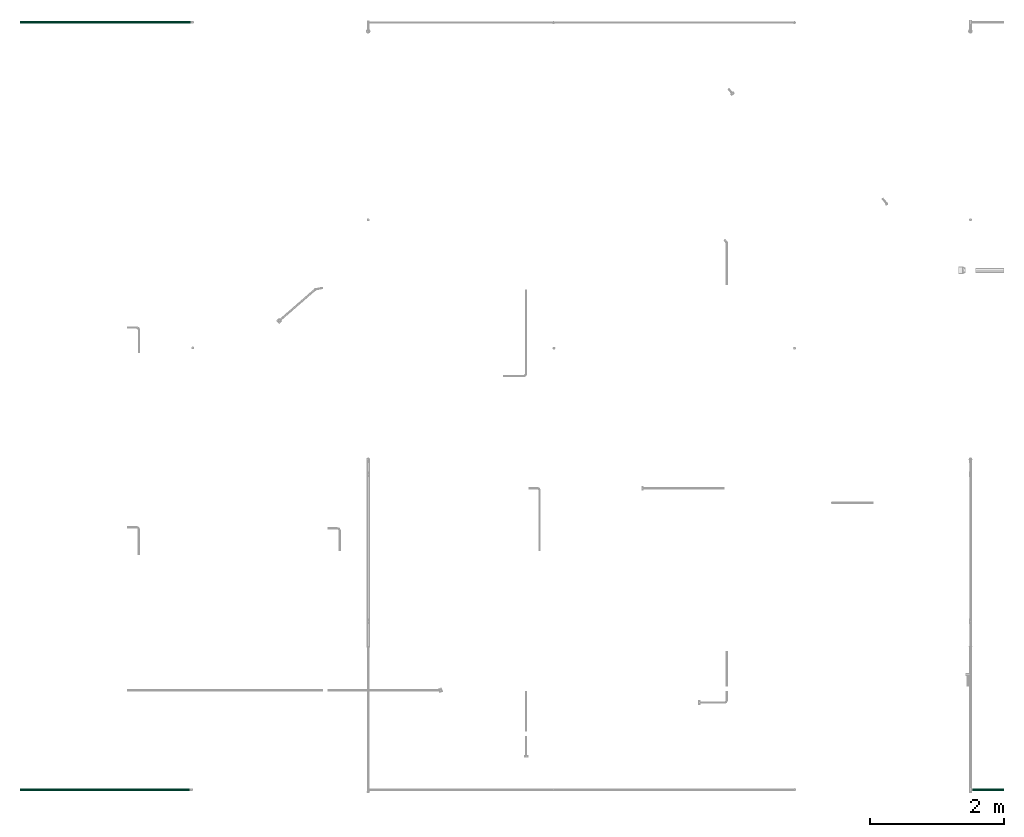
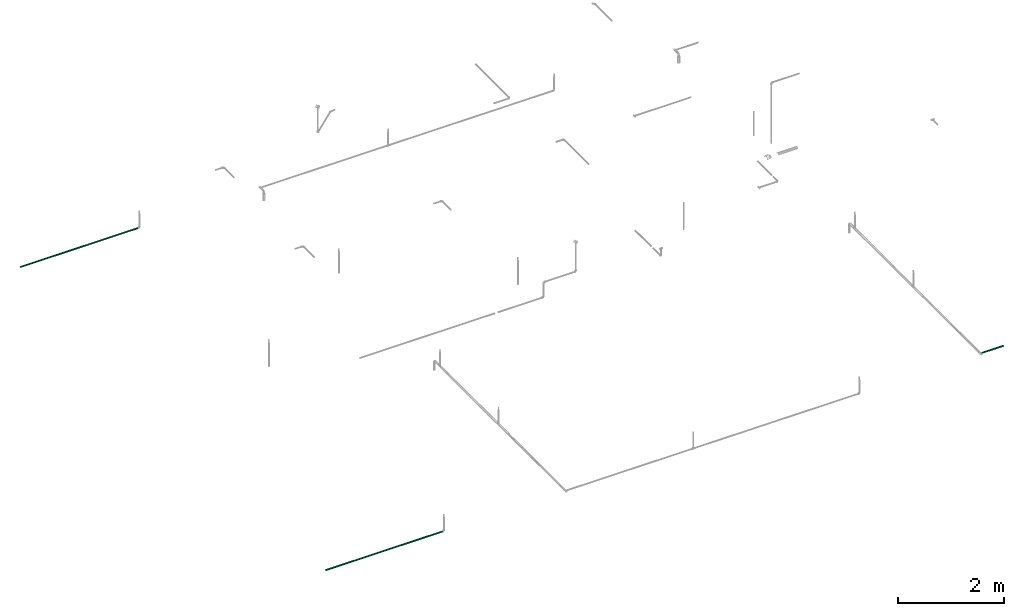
# One storey, part 58 of 63: 3 flow segments.
"""IFC2X3 building model written with IfcOpenShell, lengths in millimetres."""

from ifc_helpers import new_model, entity, si_unit, converted_unit, derived_unit, direction, frame, place, context, subcontext, project, spatial, faceted_brep, type_object, element, save


model = new_model("IFC2X3")

# Units and contexts
model_context = context("Model", 3, precision=0.01, world=frame((0.0, 4.29681676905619e-09, 0.0)), true_north=direction((4.01073788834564e-13, 1.0)))
plan_context = context("Plan", 3, precision=0.01, world=frame((0.0, 4.29681676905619e-09, 0.0)), true_north=direction((4.01073788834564e-13, 1.0)))
body_context = subcontext(model_context, "Body", "Model", "MODEL_VIEW")
ifc_project = project(units=[converted_unit("PLANEANGLEUNIT", "DEGREE", entity("IfcPositiveLengthMeasure", 0.0174532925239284), si_unit("PLANEANGLEUNIT", "RADIAN"), dimensions=[0, 0, 0, 0, 0, 0, 0]), si_unit("AREAUNIT", "SQUARE_METRE"), si_unit("LENGTHUNIT", "METRE", prefix="MILLI"), si_unit("MASSUNIT", "GRAM", prefix="KILO"), si_unit("POWERUNIT", "WATT"), si_unit("PRESSUREUNIT", "PASCAL", prefix="KILO"), si_unit("FORCEUNIT", "NEWTON", prefix="KILO"), si_unit("ELECTRICVOLTAGEUNIT", "VOLT"), si_unit("ELECTRICCURRENTUNIT", "AMPERE"), si_unit("THERMODYNAMICTEMPERATUREUNIT", "DEGREE_CELSIUS"), si_unit("TIMEUNIT", "SECOND"), si_unit("VOLUMEUNIT", "CUBIC_METRE"), derived_unit("LINEARVELOCITYUNIT", [(si_unit("LENGTHUNIT", "METRE"), 1), (si_unit("TIMEUNIT", "SECOND"), -1)]), derived_unit("VOLUMETRICFLOWRATEUNIT", [(si_unit("VOLUMEUNIT", "CUBIC_METRE"), 1), (si_unit("TIMEUNIT", "SECOND"), -1)]), derived_unit("THERMALTRANSMITTANCEUNIT", [(si_unit("POWERUNIT", "WATT"), 1), (si_unit("THERMODYNAMICTEMPERATUREUNIT", "KELVIN"), -1), (si_unit("AREAUNIT", "SQUARE_METRE"), -1)]), derived_unit("SOUNDPRESSUREUNIT", [(si_unit("PRESSUREUNIT", "PASCAL"), 1)])], contexts=[model_context, plan_context])

# Site, building, storey
site_placement = place(None, frame((0.0, -4.29681676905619e-09, 0.0), z_axis=(0.0, 0.0, 1.0), x_axis=(1.0, 0.0, 0.0)))
site = spatial("IfcSite", under=ifc_project, at=site_placement, CompositionType="ELEMENT")
building_placement = place(site_placement, frame((0.0, 4.29681676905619e-09, 0.0), z_axis=(0.0, 0.0, 1.0), x_axis=(1.0, 0.0, 0.0)))
building = spatial("IfcBuilding", under=site, at=building_placement, Name="mc-building", CompositionType="ELEMENT")
storey_placement = place(building_placement, frame((0.0, 0.0, 207370.0), z_axis=(0.0, 0.0, 1.0), x_axis=(1.0, 0.0, 0.0)))
storey = spatial("IfcBuildingStorey", under=building, at=storey_placement, Name="Nivå E", CompositionType="ELEMENT", Elevation=207370.0)

# Flow segments
pipe_segment_type = type_object("IfcPipeSegmentType", Name="Stålrør normaltykke", PredefinedType="RIGIDSEGMENT")
flow_segment_1_placement = place(storey_placement, frame((713611.25017, 446162.04449, 2700.0), z_axis=(0.0, 0.0, 1.0), x_axis=(1.0, 0.0, 0.0)))
element("IfcFlowSegment", 1, at=flow_segment_1_placement, inside=storey, type_object=pipe_segment_type, Name="Stålrør normaltykke", context=body_context, shape_type="Brep", body=[
    faceted_brep([(826.737329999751, 14.6736355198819, -2.58735784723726), (826.737329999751, 14.9, 0.0), (3372.3, 14.9, 0.0), (3372.3, 14.6736355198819, -2.58735784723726), (826.737329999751, 14.00142004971, -5.09610013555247), (3372.3, 14.00142004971, -5.09610013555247), (826.737329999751, 12.9037785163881, -7.45), (3372.3, 12.9037785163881, -7.45000000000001), (826.737329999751, 11.4140622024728, -9.57753538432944), (3372.3, 11.4140622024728, -9.57753538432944), (826.737329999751, 9.57753538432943, -11.4140622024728), (3372.3, 9.57753538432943, -11.4140622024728), (826.737329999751, 7.45, -12.9037785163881), (3372.3, 7.45, -12.9037785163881), (826.737329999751, 5.09610013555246, -14.00142004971), (3372.3, 5.09610013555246, -14.00142004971), (826.737329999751, 2.58735784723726, -14.6736355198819), (3372.3, 2.58735784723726, -14.6736355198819), (826.737329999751, -2.73708559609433e-15, -14.9), (3372.3, -2.73708559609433e-15, -14.9), (826.737329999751, -2.58735784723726, -14.6736355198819), (3372.3, -2.58735784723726, -14.6736355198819), (826.737329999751, -5.09610013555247, -14.00142004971), (3372.3, -5.09610013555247, -14.00142004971), (826.737329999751, -7.45, -12.9037785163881), (3372.3, -7.45000000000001, -12.9037785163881), (826.737329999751, -9.57753538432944, -11.4140622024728), (3372.3, -9.57753538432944, -11.4140622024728), (826.737329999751, -11.4140622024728, -9.57753538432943), (3372.3, -11.4140622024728, -9.57753538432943), (826.737329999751, -12.9037785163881, -7.44999999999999), (3372.3, -12.9037785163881, -7.44999999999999), (826.737329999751, -14.00142004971, -5.09610013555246), (3372.3, -14.00142004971, -5.09610013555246), (826.737329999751, -14.6736355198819, -2.58735784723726), (3372.3, -14.6736355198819, -2.58735784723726), (826.737329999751, -14.9, 1.82472373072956e-15), (3372.3, -14.9, 1.82472373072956e-15), (826.737329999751, -14.6736355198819, 2.58735784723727), (3372.3, -14.6736355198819, 2.58735784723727), (826.737329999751, -14.00142004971, 5.09610013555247), (3372.3, -14.00142004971, 5.09610013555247), (826.737329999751, -12.9037785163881, 7.45), (3372.3, -12.9037785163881, 7.45), (826.737329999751, -11.4140622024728, 9.57753538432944), (3372.3, -11.4140622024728, 9.57753538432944), (826.737329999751, -9.57753538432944, 11.4140622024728), (3372.3, -9.57753538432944, 11.4140622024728), (826.737329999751, -7.45, 12.9037785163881), (3372.3, -7.45, 12.9037785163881), (826.737329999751, -5.09610013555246, 14.00142004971), (3372.3, -5.09610013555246, 14.00142004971), (826.737329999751, -2.58735784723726, 14.6736355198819), (3372.3, -2.58735784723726, 14.6736355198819), (826.737329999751, 9.12361865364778e-16, 14.9), (3372.3, 9.12361865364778e-16, 14.9), (826.737329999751, 2.58735784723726, 14.6736355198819), (3372.3, 2.58735784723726, 14.6736355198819), (826.737329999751, 5.09610013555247, 14.00142004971), (3372.3, 5.09610013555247, 14.00142004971), (826.737329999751, 7.45, 12.9037785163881), (3372.3, 7.45, 12.9037785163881), (826.737329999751, 9.57753538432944, 11.4140622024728), (3372.3, 9.57753538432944, 11.4140622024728), (826.737329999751, 11.4140622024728, 9.57753538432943), (3372.3, 11.4140622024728, 9.57753538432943), (826.737329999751, 12.9037785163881, 7.45), (3372.3, 12.9037785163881, 7.45), (826.737329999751, 14.00142004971, 5.09610013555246), (3372.3, 14.00142004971, 5.09610013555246), (826.737329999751, 14.6736355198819, 2.58735784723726), (3372.3, 14.6736355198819, 2.58735784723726), (826.737329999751, 16.9, 0.0), (826.737329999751, 16.6432510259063, -2.93465420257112), (3372.3, 16.6432510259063, -2.93465420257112), (3372.3, 16.9, 0.0), (826.737329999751, 16.6432510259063, 2.93465420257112), (3372.3, 16.6432510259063, 2.93465420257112), (826.737329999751, 15.8808052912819, 5.7801404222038), (3372.3, 15.8808052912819, 5.7801404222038), (826.737329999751, 14.635829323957, 8.45), (3372.3, 14.635829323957, 8.45), (826.737329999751, 12.9461510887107, 10.8631106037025), (3372.3, 12.9461510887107, 10.8631106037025), (826.737329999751, 10.8631106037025, 12.9461510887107), (3372.3, 10.8631106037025, 12.9461510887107), (826.737329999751, 8.45, 14.635829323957), (3372.3, 8.45, 14.635829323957), (826.737329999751, 5.7801404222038, 15.8808052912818), (3372.3, 5.7801404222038, 15.8808052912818), (826.737329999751, 2.93465420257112, 16.6432510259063), (3372.3, 2.93465420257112, 16.6432510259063), (826.737329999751, 1.03482654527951e-15, 16.9), (3372.3, 1.03482654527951e-15, 16.9), (826.737329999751, -2.93465420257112, 16.6432510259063), (3372.3, -2.93465420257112, 16.6432510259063), (826.737329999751, -5.7801404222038, 15.8808052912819), (3372.3, -5.7801404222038, 15.8808052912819), (826.737329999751, -8.45, 14.635829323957), (3372.3, -8.45, 14.635829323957), (826.737329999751, -10.8631106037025, 12.9461510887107), (3372.3, -10.8631106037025, 12.9461510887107), (826.737329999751, -12.9461510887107, 10.8631106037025), (3372.3, -12.9461510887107, 10.8631106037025), (826.737329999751, -14.635829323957, 8.45), (3372.3, -14.635829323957, 8.45), (826.737329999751, -15.8808052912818, 5.7801404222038), (3372.3, -15.8808052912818, 5.7801404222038), (826.737329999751, -16.6432510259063, 2.93465420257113), (3372.3, -16.6432510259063, 2.93465420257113), (826.737329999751, -16.9, 2.06965309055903e-15), (3372.3, -16.9, 2.06965309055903e-15), (826.737329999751, -16.6432510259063, -2.93465420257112), (3372.3, -16.6432510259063, -2.93465420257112), (826.737329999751, -15.8808052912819, -5.7801404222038), (3372.3, -15.8808052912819, -5.7801404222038), (826.737329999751, -14.635829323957, -8.44999999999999), (3372.3, -14.635829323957, -8.44999999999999), (826.737329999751, -12.9461510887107, -10.8631106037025), (3372.3, -12.9461510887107, -10.8631106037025), (826.737329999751, -10.8631106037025, -12.9461510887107), (3372.3, -10.8631106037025, -12.9461510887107), (826.737329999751, -8.45000000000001, -14.635829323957), (3372.3, -8.45000000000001, -14.635829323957), (826.737329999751, -5.78014042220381, -15.8808052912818), (3372.3, -5.78014042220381, -15.8808052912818), (826.737329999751, -2.93465420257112, -16.6432510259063), (3372.3, -2.93465420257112, -16.6432510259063), (826.737329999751, -3.10447963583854e-15, -16.9), (3372.3, -3.10447963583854e-15, -16.9), (826.737329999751, 2.93465420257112, -16.6432510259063), (3372.3, 2.93465420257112, -16.6432510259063), (826.737329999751, 5.78014042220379, -15.8808052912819), (3372.3, 5.78014042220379, -15.8808052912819), (826.737329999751, 8.45, -14.635829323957), (3372.3, 8.45, -14.635829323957), (826.737329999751, 10.8631106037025, -12.9461510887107), (3372.3, 10.8631106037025, -12.9461510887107), (826.737329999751, 12.9461510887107, -10.8631106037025), (3372.3, 12.9461510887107, -10.8631106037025), (826.737329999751, 14.635829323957, -8.45000000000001), (3372.3, 14.635829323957, -8.45000000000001), (826.737329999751, 15.8808052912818, -5.78014042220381), (3372.3, 15.8808052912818, -5.78014042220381)], [[[0, 1, 2, 3]], [[4, 0, 3, 5]], [[6, 4, 5, 7]], [[8, 6, 7, 9]], [[10, 8, 9, 11]], [[12, 10, 11, 13]], [[14, 12, 13, 15]], [[16, 14, 15, 17]], [[18, 16, 17, 19]], [[20, 18, 19, 21]], [[22, 20, 21, 23]], [[24, 22, 23, 25]], [[26, 24, 25, 27]], [[28, 26, 27, 29]], [[30, 28, 29, 31]], [[32, 30, 31, 33]], [[34, 32, 33, 35]], [[36, 34, 35, 37]], [[38, 36, 37, 39]], [[40, 38, 39, 41]], [[42, 40, 41, 43]], [[44, 42, 43, 45]], [[46, 44, 45, 47]], [[48, 46, 47, 49]], [[50, 48, 49, 51]], [[52, 50, 51, 53]], [[54, 52, 53, 55]], [[56, 54, 55, 57]], [[58, 56, 57, 59]], [[60, 58, 59, 61]], [[62, 60, 61, 63]], [[64, 62, 63, 65]], [[66, 64, 65, 67]], [[68, 66, 67, 69]], [[70, 68, 69, 71]], [[1, 70, 71, 2]], [[72, 73, 74, 75]], [[76, 72, 75, 77]], [[78, 76, 77, 79]], [[80, 78, 79, 81]], [[82, 80, 81, 83]], [[84, 82, 83, 85]], [[86, 84, 85, 87]], [[88, 86, 87, 89]], [[90, 88, 89, 91]], [[92, 90, 91, 93]], [[94, 92, 93, 95]], [[96, 94, 95, 97]], [[98, 96, 97, 99]], [[100, 98, 99, 101]], [[102, 100, 101, 103]], [[104, 102, 103, 105]], [[106, 104, 105, 107]], [[108, 106, 107, 109]], [[110, 108, 109, 111]], [[112, 110, 111, 113]], [[114, 112, 113, 115]], [[116, 114, 115, 117]], [[118, 116, 117, 119]], [[120, 118, 119, 121]], [[122, 120, 121, 123]], [[124, 122, 123, 125]], [[126, 124, 125, 127]], [[128, 126, 127, 129]], [[130, 128, 129, 131]], [[132, 130, 131, 133]], [[134, 132, 133, 135]], [[136, 134, 135, 137]], [[138, 136, 137, 139]], [[140, 138, 139, 141]], [[142, 140, 141, 143]], [[73, 142, 143, 74]], [[75, 74, 143, 141, 139, 137, 135, 133, 131, 129, 127, 125, 123, 121, 119, 117, 115, 113, 111, 109, 107, 105, 103, 101, 99, 97, 95, 93, 91, 89, 87, 85, 83, 81, 79, 77], [2, 71, 69, 67, 65, 63, 61, 59, 57, 55, 53, 51, 49, 47, 45, 43, 41, 39, 37, 35, 33, 31, 29, 27, 25, 23, 21, 19, 17, 15, 13, 11, 9, 7, 5, 3]], [[76, 78, 80, 82, 84, 86, 88, 90, 92, 94, 96, 98, 100, 102, 104, 106, 108, 110, 112, 114, 116, 118, 120, 122, 124, 126, 128, 130, 132, 134, 136, 138, 140, 142, 73, 72], [4, 6, 8, 10, 12, 14, 16, 18, 20, 22, 24, 26, 28, 30, 32, 34, 36, 38, 40, 42, 44, 46, 48, 50, 52, 54, 56, 58, 60, 62, 64, 66, 68, 70, 1, 0]]], orient=[[False], [False], [False], [False], [False], [False], [False], [False], [False], [False], [False], [False], [False], [False], [False], [False], [False], [False], [False], [False], [False], [False], [False], [False], [False], [False], [False], [False], [False], [False], [False], [False], [False], [False], [False], [False], [False], [False], [False], [False], [False], [False], [False], [False], [False], [False], [False], [False], [False], [False], [False], [False], [False], [False], [False], [False], [False], [False], [False], [False], [False], [False], [False], [False], [False], [False], [False], [False], [False], [False], [False], [False], [False, False], [False, False]]),
])
flow_segment_2_placement = place(storey_placement, frame((713444.5375, 434695.91689, 2700.0), z_axis=(0.0, 0.0, 1.0), x_axis=(1.0, 0.0, 0.0)))
element("IfcFlowSegment", 2, at=flow_segment_2_placement, inside=storey, type_object=pipe_segment_type, Name="Stålrør normaltykke", context=body_context, shape_type="Brep", body=[
    faceted_brep([(993.449999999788, 14.6736355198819, -2.58735784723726), (993.449999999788, 14.9, 0.0), (3525.4, 14.9, 0.0), (3525.4, 14.6736355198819, -2.58735784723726), (993.449999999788, 14.00142004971, -5.09610013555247), (3525.4, 14.00142004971, -5.09610013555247), (993.449999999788, 12.9037785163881, -7.45000000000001), (3525.4, 12.9037785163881, -7.45000000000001), (993.449999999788, 11.4140622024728, -9.57753538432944), (3525.4, 11.4140622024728, -9.57753538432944), (993.449999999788, 9.57753538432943, -11.4140622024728), (3525.4, 9.57753538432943, -11.4140622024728), (993.449999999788, 7.45, -12.9037785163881), (3525.4, 7.45, -12.9037785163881), (993.449999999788, 5.09610013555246, -14.00142004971), (3525.4, 5.09610013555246, -14.00142004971), (993.449999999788, 2.58735784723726, -14.6736355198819), (3525.4, 2.58735784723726, -14.6736355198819), (993.449999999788, -2.73708559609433e-15, -14.9), (3525.4, -2.73708559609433e-15, -14.9), (993.449999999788, -2.58735784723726, -14.6736355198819), (3525.4, -2.58735784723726, -14.6736355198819), (993.449999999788, -5.09610013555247, -14.00142004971), (3525.4, -5.09610013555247, -14.00142004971), (993.449999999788, -7.45000000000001, -12.9037785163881), (3525.4, -7.45000000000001, -12.9037785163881), (993.449999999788, -9.57753538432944, -11.4140622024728), (3525.4, -9.57753538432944, -11.4140622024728), (993.449999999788, -11.4140622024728, -9.57753538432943), (3525.4, -11.4140622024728, -9.57753538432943), (993.449999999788, -12.9037785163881, -7.44999999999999), (3525.4, -12.9037785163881, -7.44999999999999), (993.449999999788, -14.00142004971, -5.09610013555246), (3525.4, -14.00142004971, -5.09610013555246), (993.449999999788, -14.6736355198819, -2.58735784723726), (3525.4, -14.6736355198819, -2.58735784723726), (993.449999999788, -14.9, 1.82472373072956e-15), (3525.4, -14.9, 1.82472373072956e-15), (993.449999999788, -14.6736355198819, 2.58735784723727), (3525.4, -14.6736355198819, 2.58735784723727), (993.449999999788, -14.00142004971, 5.09610013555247), (3525.4, -14.00142004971, 5.09610013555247), (993.449999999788, -12.9037785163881, 7.45), (3525.4, -12.9037785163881, 7.45), (993.449999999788, -11.4140622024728, 9.57753538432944), (3525.4, -11.4140622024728, 9.57753538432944), (993.449999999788, -9.57753538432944, 11.4140622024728), (3525.4, -9.57753538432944, 11.4140622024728), (993.449999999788, -7.45, 12.9037785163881), (3525.4, -7.45, 12.9037785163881), (993.449999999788, -5.09610013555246, 14.00142004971), (3525.4, -5.09610013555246, 14.00142004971), (993.449999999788, -2.58735784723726, 14.6736355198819), (3525.4, -2.58735784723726, 14.6736355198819), (993.449999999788, 9.12361865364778e-16, 14.9), (3525.4, 9.12361865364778e-16, 14.9), (993.449999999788, 2.58735784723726, 14.6736355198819), (3525.4, 2.58735784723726, 14.6736355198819), (993.449999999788, 5.09610013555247, 14.00142004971), (3525.4, 5.09610013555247, 14.00142004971), (993.449999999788, 7.45, 12.9037785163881), (3525.4, 7.45, 12.9037785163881), (993.449999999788, 9.57753538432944, 11.4140622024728), (3525.4, 9.57753538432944, 11.4140622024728), (993.449999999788, 11.4140622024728, 9.57753538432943), (3525.4, 11.4140622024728, 9.57753538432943), (993.449999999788, 12.9037785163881, 7.45), (3525.4, 12.9037785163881, 7.45), (993.449999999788, 14.00142004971, 5.09610013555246), (3525.4, 14.00142004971, 5.09610013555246), (993.449999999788, 14.6736355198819, 2.58735784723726), (3525.4, 14.6736355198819, 2.58735784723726), (993.449999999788, 16.9, 0.0), (993.449999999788, 16.6432510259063, -2.93465420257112), (3525.4, 16.6432510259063, -2.93465420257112), (3525.4, 16.9, 0.0), (993.449999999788, 16.6432510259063, 2.93465420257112), (3525.4, 16.6432510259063, 2.93465420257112), (993.449999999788, 15.8808052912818, 5.7801404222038), (3525.4, 15.8808052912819, 5.7801404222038), (993.449999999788, 14.635829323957, 8.45), (3525.4, 14.635829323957, 8.45), (993.449999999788, 12.9461510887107, 10.8631106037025), (3525.4, 12.9461510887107, 10.8631106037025), (993.449999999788, 10.8631106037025, 12.9461510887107), (3525.4, 10.8631106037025, 12.9461510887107), (993.449999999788, 8.45, 14.635829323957), (3525.4, 8.45, 14.635829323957), (993.449999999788, 5.7801404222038, 15.8808052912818), (3525.4, 5.7801404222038, 15.8808052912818), (993.449999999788, 2.93465420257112, 16.6432510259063), (3525.4, 2.93465420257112, 16.6432510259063), (993.449999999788, 1.03482654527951e-15, 16.9), (3525.4, 1.03482654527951e-15, 16.9), (993.449999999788, -2.93465420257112, 16.6432510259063), (3525.4, -2.93465420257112, 16.6432510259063), (993.449999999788, -5.7801404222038, 15.8808052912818), (3525.4, -5.7801404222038, 15.8808052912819), (993.449999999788, -8.45, 14.635829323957), (3525.4, -8.45, 14.635829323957), (993.449999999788, -10.8631106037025, 12.9461510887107), (3525.4, -10.8631106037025, 12.9461510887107), (993.449999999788, -12.9461510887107, 10.8631106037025), (3525.4, -12.9461510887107, 10.8631106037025), (993.449999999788, -14.635829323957, 8.45), (3525.4, -14.635829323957, 8.45), (993.449999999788, -15.8808052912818, 5.7801404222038), (3525.4, -15.8808052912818, 5.7801404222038), (993.449999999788, -16.6432510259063, 2.93465420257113), (3525.4, -16.6432510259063, 2.93465420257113), (993.449999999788, -16.9, 2.06965309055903e-15), (3525.4, -16.9, 2.06965309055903e-15), (993.449999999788, -16.6432510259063, -2.93465420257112), (3525.4, -16.6432510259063, -2.93465420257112), (993.449999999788, -15.8808052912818, -5.7801404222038), (3525.4, -15.8808052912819, -5.7801404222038), (993.449999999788, -14.635829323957, -8.44999999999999), (3525.4, -14.635829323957, -8.44999999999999), (993.449999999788, -12.9461510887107, -10.8631106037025), (3525.4, -12.9461510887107, -10.8631106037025), (993.449999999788, -10.8631106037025, -12.9461510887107), (3525.4, -10.8631106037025, -12.9461510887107), (993.449999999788, -8.45000000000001, -14.635829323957), (3525.4, -8.45000000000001, -14.635829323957), (993.449999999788, -5.78014042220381, -15.8808052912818), (3525.4, -5.78014042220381, -15.8808052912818), (993.449999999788, -2.93465420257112, -16.6432510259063), (3525.4, -2.93465420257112, -16.6432510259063), (993.449999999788, -3.10447963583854e-15, -16.9), (3525.4, -3.10447963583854e-15, -16.9), (993.449999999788, 2.93465420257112, -16.6432510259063), (3525.4, 2.93465420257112, -16.6432510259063), (993.449999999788, 5.78014042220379, -15.8808052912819), (3525.4, 5.78014042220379, -15.8808052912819), (993.449999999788, 8.45, -14.635829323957), (3525.4, 8.45, -14.635829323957), (993.449999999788, 10.8631106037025, -12.9461510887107), (3525.4, 10.8631106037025, -12.9461510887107), (993.449999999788, 12.9461510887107, -10.8631106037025), (3525.4, 12.9461510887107, -10.8631106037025), (993.449999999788, 14.635829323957, -8.45000000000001), (3525.4, 14.635829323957, -8.45000000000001), (993.449999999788, 15.8808052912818, -5.78014042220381), (3525.4, 15.8808052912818, -5.78014042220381)], [[[0, 1, 2, 3]], [[4, 0, 3, 5]], [[6, 4, 5, 7]], [[8, 6, 7, 9]], [[10, 8, 9, 11]], [[12, 10, 11, 13]], [[14, 12, 13, 15]], [[16, 14, 15, 17]], [[18, 16, 17, 19]], [[20, 18, 19, 21]], [[22, 20, 21, 23]], [[24, 22, 23, 25]], [[26, 24, 25, 27]], [[28, 26, 27, 29]], [[30, 28, 29, 31]], [[32, 30, 31, 33]], [[34, 32, 33, 35]], [[36, 34, 35, 37]], [[38, 36, 37, 39]], [[40, 38, 39, 41]], [[42, 40, 41, 43]], [[44, 42, 43, 45]], [[46, 44, 45, 47]], [[48, 46, 47, 49]], [[50, 48, 49, 51]], [[52, 50, 51, 53]], [[54, 52, 53, 55]], [[56, 54, 55, 57]], [[58, 56, 57, 59]], [[60, 58, 59, 61]], [[62, 60, 61, 63]], [[64, 62, 63, 65]], [[66, 64, 65, 67]], [[68, 66, 67, 69]], [[70, 68, 69, 71]], [[1, 70, 71, 2]], [[72, 73, 74, 75]], [[76, 72, 75, 77]], [[78, 76, 77, 79]], [[80, 78, 79, 81]], [[82, 80, 81, 83]], [[84, 82, 83, 85]], [[86, 84, 85, 87]], [[88, 86, 87, 89]], [[90, 88, 89, 91]], [[92, 90, 91, 93]], [[94, 92, 93, 95]], [[96, 94, 95, 97]], [[98, 96, 97, 99]], [[100, 98, 99, 101]], [[102, 100, 101, 103]], [[104, 102, 103, 105]], [[106, 104, 105, 107]], [[108, 106, 107, 109]], [[110, 108, 109, 111]], [[112, 110, 111, 113]], [[114, 112, 113, 115]], [[116, 114, 115, 117]], [[118, 116, 117, 119]], [[120, 118, 119, 121]], [[122, 120, 121, 123]], [[124, 122, 123, 125]], [[126, 124, 125, 127]], [[128, 126, 127, 129]], [[130, 128, 129, 131]], [[132, 130, 131, 133]], [[134, 132, 133, 135]], [[136, 134, 135, 137]], [[138, 136, 137, 139]], [[140, 138, 139, 141]], [[142, 140, 141, 143]], [[73, 142, 143, 74]], [[75, 74, 143, 141, 139, 137, 135, 133, 131, 129, 127, 125, 123, 121, 119, 117, 115, 113, 111, 109, 107, 105, 103, 101, 99, 97, 95, 93, 91, 89, 87, 85, 83, 81, 79, 77], [2, 71, 69, 67, 65, 63, 61, 59, 57, 55, 53, 51, 49, 47, 45, 43, 41, 39, 37, 35, 33, 31, 29, 27, 25, 23, 21, 19, 17, 15, 13, 11, 9, 7, 5, 3]], [[76, 78, 80, 82, 84, 86, 88, 90, 92, 94, 96, 98, 100, 102, 104, 106, 108, 110, 112, 114, 116, 118, 120, 122, 124, 126, 128, 130, 132, 134, 136, 138, 140, 142, 73, 72], [4, 6, 8, 10, 12, 14, 16, 18, 20, 22, 24, 26, 28, 30, 32, 34, 36, 38, 40, 42, 44, 46, 48, 50, 52, 54, 56, 58, 60, 62, 64, 66, 68, 70, 1, 0]]], orient=[[False], [False], [False], [False], [False], [False], [False], [False], [False], [False], [False], [False], [False], [False], [False], [False], [False], [False], [False], [False], [False], [False], [False], [False], [False], [False], [False], [False], [False], [False], [False], [False], [False], [False], [False], [False], [False], [False], [False], [False], [False], [False], [False], [False], [False], [False], [False], [False], [False], [False], [False], [False], [False], [False], [False], [False], [False], [False], [False], [False], [False], [False], [False], [False], [False], [False], [False], [False], [False], [False], [False], [False], [False, False], [False, False]]),
])
flow_segment_3_placement = place(storey_placement, frame((728673.09045, 434694.40604, 2700.0), z_axis=(0.0, 0.0, 1.0), x_axis=(1.0, 0.0, 0.0)))
element("IfcFlowSegment", 3, at=flow_segment_3_placement, inside=storey, type_object=pipe_segment_type, Name="Stålrør normaltykke", context=body_context, shape_type="Brep", body=[
    faceted_brep([(469.499336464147, 14.9, 0.0), (469.499336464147, 14.6736355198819, -2.58735784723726), (0.0, 14.6736355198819, -2.58735784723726), (0.0, 14.9, 0.0), (469.499336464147, 14.00142004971, -5.09610013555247), (0.0, 14.00142004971, -5.09610013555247), (469.499336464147, 12.9037785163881, -7.45000000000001), (0.0, 12.9037785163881, -7.45000000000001), (469.499336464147, 11.4140622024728, -9.57753538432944), (0.0, 11.4140622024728, -9.57753538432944), (469.499336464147, 9.57753538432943, -11.4140622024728), (0.0, 9.57753538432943, -11.4140622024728), (469.499336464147, 7.45, -12.9037785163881), (0.0, 7.45, -12.9037785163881), (469.499336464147, 5.09610013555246, -14.00142004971), (0.0, 5.09610013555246, -14.00142004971), (469.499336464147, 2.58735784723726, -14.6736355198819), (0.0, 2.58735784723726, -14.6736355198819), (469.499336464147, -2.73708559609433e-15, -14.9), (0.0, -2.73708559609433e-15, -14.9), (469.499336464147, -2.58735784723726, -14.6736355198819), (0.0, -2.58735784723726, -14.6736355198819), (469.499336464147, -5.09610013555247, -14.00142004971), (0.0, -5.09610013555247, -14.00142004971), (469.499336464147, -7.45000000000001, -12.9037785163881), (0.0, -7.45000000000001, -12.9037785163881), (469.499336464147, -9.57753538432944, -11.4140622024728), (0.0, -9.57753538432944, -11.4140622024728), (469.499336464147, -11.4140622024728, -9.57753538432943), (0.0, -11.4140622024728, -9.57753538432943), (469.499336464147, -12.9037785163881, -7.44999999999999), (0.0, -12.9037785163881, -7.44999999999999), (469.499336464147, -14.00142004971, -5.09610013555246), (0.0, -14.00142004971, -5.09610013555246), (469.499336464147, -14.6736355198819, -2.58735784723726), (0.0, -14.6736355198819, -2.58735784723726), (469.499336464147, -14.9, 1.82472373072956e-15), (0.0, -14.9, 1.82472373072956e-15), (469.499336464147, -14.6736355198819, 2.58735784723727), (0.0, -14.6736355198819, 2.58735784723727), (469.499336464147, -14.00142004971, 5.09610013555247), (0.0, -14.00142004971, 5.09610013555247), (469.499336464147, -12.9037785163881, 7.45), (0.0, -12.9037785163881, 7.45), (469.499336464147, -11.4140622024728, 9.57753538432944), (0.0, -11.4140622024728, 9.57753538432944), (469.499336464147, -9.57753538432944, 11.4140622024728), (0.0, -9.57753538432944, 11.4140622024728), (469.499336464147, -7.45, 12.9037785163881), (0.0, -7.45, 12.9037785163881), (469.499336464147, -5.09610013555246, 14.00142004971), (0.0, -5.09610013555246, 14.00142004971), (469.499336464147, -2.58735784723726, 14.6736355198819), (0.0, -2.58735784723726, 14.6736355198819), (469.499336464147, 9.12361865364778e-16, 14.9), (0.0, 9.12361865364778e-16, 14.9), (469.499336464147, 2.58735784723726, 14.6736355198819), (0.0, 2.58735784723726, 14.6736355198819), (469.499336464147, 5.09610013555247, 14.00142004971), (0.0, 5.09610013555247, 14.00142004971), (469.499336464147, 7.45, 12.9037785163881), (0.0, 7.45, 12.9037785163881), (469.499336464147, 9.57753538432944, 11.4140622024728), (0.0, 9.57753538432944, 11.4140622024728), (469.499336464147, 11.4140622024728, 9.57753538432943), (0.0, 11.4140622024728, 9.57753538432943), (469.499336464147, 12.9037785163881, 7.45), (0.0, 12.9037785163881, 7.45), (469.499336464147, 14.00142004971, 5.09610013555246), (0.0, 14.00142004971, 5.09610013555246), (469.499336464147, 14.6736355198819, 2.58735784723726), (0.0, 14.6736355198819, 2.58735784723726), (469.499336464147, 16.6432510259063, -2.93465420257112), (469.499336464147, 16.9, 0.0), (0.0, 16.9, 0.0), (0.0, 16.6432510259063, -2.93465420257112), (469.499336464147, 16.6432510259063, 2.93465420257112), (0.0, 16.6432510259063, 2.93465420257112), (469.499336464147, 15.8808052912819, 5.7801404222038), (0.0, 15.8808052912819, 5.7801404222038), (469.499336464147, 14.635829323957, 8.45), (0.0, 14.635829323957, 8.45), (469.499336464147, 12.9461510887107, 10.8631106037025), (0.0, 12.9461510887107, 10.8631106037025), (469.499336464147, 10.8631106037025, 12.9461510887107), (0.0, 10.8631106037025, 12.9461510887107), (469.499336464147, 8.45, 14.635829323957), (0.0, 8.45, 14.635829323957), (469.499336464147, 5.7801404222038, 15.8808052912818), (0.0, 5.7801404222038, 15.8808052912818), (469.499336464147, 2.93465420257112, 16.6432510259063), (0.0, 2.93465420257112, 16.6432510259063), (469.499336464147, 1.03482654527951e-15, 16.9), (0.0, 1.03482654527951e-15, 16.9), (469.499336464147, -2.93465420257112, 16.6432510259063), (0.0, -2.93465420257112, 16.6432510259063), (469.499336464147, -5.7801404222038, 15.8808052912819), (0.0, -5.7801404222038, 15.8808052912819), (469.499336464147, -8.45, 14.635829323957), (0.0, -8.45, 14.635829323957), (469.499336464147, -10.8631106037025, 12.9461510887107), (0.0, -10.8631106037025, 12.9461510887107), (469.499336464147, -12.9461510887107, 10.8631106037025), (0.0, -12.9461510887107, 10.8631106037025), (469.499336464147, -14.635829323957, 8.45), (0.0, -14.635829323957, 8.45), (469.499336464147, -15.8808052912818, 5.7801404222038), (0.0, -15.8808052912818, 5.7801404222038), (469.499336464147, -16.6432510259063, 2.93465420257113), (0.0, -16.6432510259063, 2.93465420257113), (469.499336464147, -16.9, 2.06965309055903e-15), (0.0, -16.9, 2.06965309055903e-15), (469.499336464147, -16.6432510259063, -2.93465420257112), (0.0, -16.6432510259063, -2.93465420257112), (469.499336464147, -15.8808052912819, -5.7801404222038), (0.0, -15.8808052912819, -5.7801404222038), (469.499336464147, -14.635829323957, -8.44999999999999), (0.0, -14.635829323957, -8.44999999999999), (469.499336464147, -12.9461510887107, -10.8631106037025), (0.0, -12.9461510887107, -10.8631106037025), (469.499336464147, -10.8631106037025, -12.9461510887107), (0.0, -10.8631106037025, -12.9461510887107), (469.499336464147, -8.45000000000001, -14.635829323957), (0.0, -8.45000000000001, -14.635829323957), (469.499336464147, -5.78014042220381, -15.8808052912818), (0.0, -5.78014042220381, -15.8808052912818), (469.499336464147, -2.93465420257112, -16.6432510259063), (0.0, -2.93465420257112, -16.6432510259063), (469.499336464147, -3.10447963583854e-15, -16.9), (0.0, -3.10447963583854e-15, -16.9), (469.499336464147, 2.93465420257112, -16.6432510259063), (0.0, 2.93465420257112, -16.6432510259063), (469.499336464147, 5.78014042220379, -15.8808052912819), (0.0, 5.78014042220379, -15.8808052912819), (469.499336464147, 8.45, -14.635829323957), (0.0, 8.45, -14.635829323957), (469.499336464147, 10.8631106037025, -12.9461510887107), (0.0, 10.8631106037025, -12.9461510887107), (469.499336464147, 12.9461510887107, -10.8631106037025), (0.0, 12.9461510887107, -10.8631106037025), (469.499336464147, 14.635829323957, -8.45000000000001), (0.0, 14.635829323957, -8.45000000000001), (469.499336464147, 15.8808052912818, -5.78014042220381), (0.0, 15.8808052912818, -5.78014042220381)], [[[0, 1, 2, 3]], [[1, 4, 5, 2]], [[4, 6, 7, 5]], [[6, 8, 9, 7]], [[8, 10, 11, 9]], [[10, 12, 13, 11]], [[12, 14, 15, 13]], [[14, 16, 17, 15]], [[16, 18, 19, 17]], [[18, 20, 21, 19]], [[20, 22, 23, 21]], [[22, 24, 25, 23]], [[24, 26, 27, 25]], [[26, 28, 29, 27]], [[28, 30, 31, 29]], [[30, 32, 33, 31]], [[32, 34, 35, 33]], [[34, 36, 37, 35]], [[36, 38, 39, 37]], [[38, 40, 41, 39]], [[40, 42, 43, 41]], [[42, 44, 45, 43]], [[44, 46, 47, 45]], [[46, 48, 49, 47]], [[48, 50, 51, 49]], [[50, 52, 53, 51]], [[52, 54, 55, 53]], [[54, 56, 57, 55]], [[56, 58, 59, 57]], [[58, 60, 61, 59]], [[60, 62, 63, 61]], [[62, 64, 65, 63]], [[64, 66, 67, 65]], [[66, 68, 69, 67]], [[68, 70, 71, 69]], [[70, 0, 3, 71]], [[72, 73, 74, 75]], [[73, 76, 77, 74]], [[76, 78, 79, 77]], [[78, 80, 81, 79]], [[80, 82, 83, 81]], [[82, 84, 85, 83]], [[84, 86, 87, 85]], [[86, 88, 89, 87]], [[88, 90, 91, 89]], [[90, 92, 93, 91]], [[92, 94, 95, 93]], [[94, 96, 97, 95]], [[96, 98, 99, 97]], [[98, 100, 101, 99]], [[100, 102, 103, 101]], [[102, 104, 105, 103]], [[104, 106, 107, 105]], [[106, 108, 109, 107]], [[108, 110, 111, 109]], [[110, 112, 113, 111]], [[112, 114, 115, 113]], [[114, 116, 117, 115]], [[116, 118, 119, 117]], [[118, 120, 121, 119]], [[120, 122, 123, 121]], [[122, 124, 125, 123]], [[124, 126, 127, 125]], [[126, 128, 129, 127]], [[128, 130, 131, 129]], [[130, 132, 133, 131]], [[132, 134, 135, 133]], [[134, 136, 137, 135]], [[136, 138, 139, 137]], [[138, 140, 141, 139]], [[140, 142, 143, 141]], [[142, 72, 75, 143]], [[75, 74, 77, 79, 81, 83, 85, 87, 89, 91, 93, 95, 97, 99, 101, 103, 105, 107, 109, 111, 113, 115, 117, 119, 121, 123, 125, 127, 129, 131, 133, 135, 137, 139, 141, 143], [3, 2, 5, 7, 9, 11, 13, 15, 17, 19, 21, 23, 25, 27, 29, 31, 33, 35, 37, 39, 41, 43, 45, 47, 49, 51, 53, 55, 57, 59, 61, 63, 65, 67, 69, 71]], [[142, 140, 138, 136, 134, 132, 130, 128, 126, 124, 122, 120, 118, 116, 114, 112, 110, 108, 106, 104, 102, 100, 98, 96, 94, 92, 90, 88, 86, 84, 82, 80, 78, 76, 73, 72], [70, 68, 66, 64, 62, 60, 58, 56, 54, 52, 50, 48, 46, 44, 42, 40, 38, 36, 34, 32, 30, 28, 26, 24, 22, 20, 18, 16, 14, 12, 10, 8, 6, 4, 1, 0]]], orient=[[False], [False], [False], [False], [False], [False], [False], [False], [False], [False], [False], [False], [False], [False], [False], [False], [False], [False], [False], [False], [False], [False], [False], [False], [False], [False], [False], [False], [False], [False], [False], [False], [False], [False], [False], [False], [False], [False], [False], [False], [False], [False], [False], [False], [False], [False], [False], [False], [False], [False], [False], [False], [False], [False], [False], [False], [False], [False], [False], [False], [False], [False], [False], [False], [False], [False], [False], [False], [False], [False], [False], [False], [False, False], [False, False]]),
])

save(model, "model.ifc")
